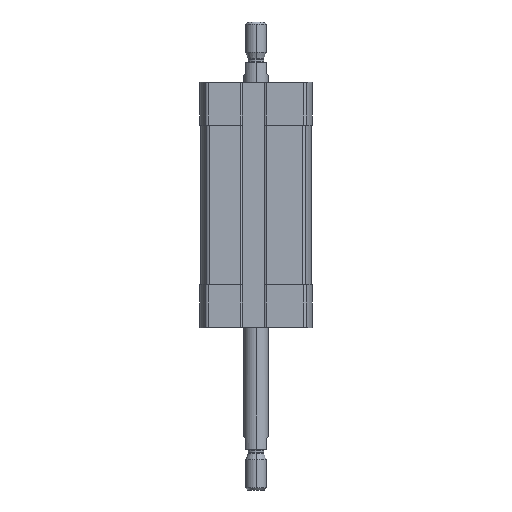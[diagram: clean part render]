
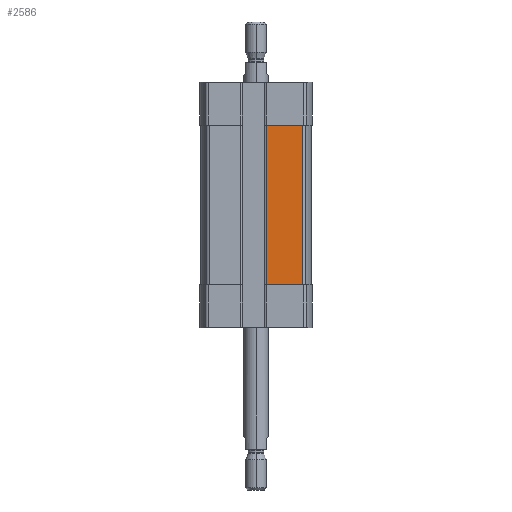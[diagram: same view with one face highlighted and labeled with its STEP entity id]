
A CAD part, left-side view. The second image highlights one B-rep face of the part: STEP entity #2586.
In plain terms, the highlighted planar face has unit normal (-1, 0, 0).
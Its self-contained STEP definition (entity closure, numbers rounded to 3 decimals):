
#1239 = CARTESIAN_POINT ( 'NONE',  ( -13.5, -2.5, -49.5 ) ) ;
#1500 = CARTESIAN_POINT ( 'NONE',  ( -13.5, -11.329, -49.5 ) ) ;
#1507 = ORIENTED_EDGE ( 'NONE', *, *, #3382, .F. ) ;
#1546 = EDGE_CURVE ( 'NONE', #11684, #2479, #5418, .T. ) ;
#1785 = LINE ( 'NONE', #9054, #7003 ) ;
#1839 = AXIS2_PLACEMENT_3D ( 'NONE', #5245, #3228, #4185 ) ;
#1902 = VECTOR ( 'NONE', #6130, 1000. ) ;
#2466 = VECTOR ( 'NONE', #3295, 1000. ) ;
#2479 = VERTEX_POINT ( 'NONE', #6630 ) ;
#2586 = ADVANCED_FACE ( 'NONE', ( #3403 ), #10604, .T. ) ;
#2774 = ORIENTED_EDGE ( 'NONE', *, *, #9204, .T. ) ;
#3004 = DIRECTION ( 'NONE',  ( 0., 0., 1. ) ) ;
#3228 = DIRECTION ( 'NONE',  ( -1., 0., 0. ) ) ;
#3295 = DIRECTION ( 'NONE',  ( 0., 0., 1. ) ) ;
#3382 = EDGE_CURVE ( 'NONE', #9969, #11684, #8426, .T. ) ;
#3403 = FACE_OUTER_BOUND ( 'NONE', #7296, .T. ) ;
#3491 = CARTESIAN_POINT ( 'NONE',  ( -13.5, -2.5, -10.5 ) ) ;
#3529 = ORIENTED_EDGE ( 'NONE', *, *, #1546, .F. ) ;
#4137 = CARTESIAN_POINT ( 'NONE',  ( -13.5, -2.5, -49.5 ) ) ;
#4185 = DIRECTION ( 'NONE',  ( 0., 0., 1. ) ) ;
#4481 = DIRECTION ( 'NONE',  ( 0., -1., 0. ) ) ;
#4771 = ORIENTED_EDGE ( 'NONE', *, *, #9349, .T. ) ;
#5245 = CARTESIAN_POINT ( 'NONE',  ( -13.5, -2.5, -49.5 ) ) ;
#5418 = LINE ( 'NONE', #11718, #1902 ) ;
#5547 = VECTOR ( 'NONE', #3004, 1000. ) ;
#5809 = LINE ( 'NONE', #1500, #2466 ) ;
#6130 = DIRECTION ( 'NONE',  ( 0., -1., 0. ) ) ;
#6630 = CARTESIAN_POINT ( 'NONE',  ( -13.5, -11.329, -10.5 ) ) ;
#7003 = VECTOR ( 'NONE', #4481, 1000. ) ;
#7296 = EDGE_LOOP ( 'NONE', ( #3529, #1507, #4771, #2774 ) ) ;
#7480 = CARTESIAN_POINT ( 'NONE',  ( -13.5, -11.329, -49.5 ) ) ;
#8426 = LINE ( 'NONE', #4137, #5547 ) ;
#9054 = CARTESIAN_POINT ( 'NONE',  ( -13.5, -2.5, -49.5 ) ) ;
#9141 = VERTEX_POINT ( 'NONE', #7480 ) ;
#9204 = EDGE_CURVE ( 'NONE', #9141, #2479, #5809, .T. ) ;
#9349 = EDGE_CURVE ( 'NONE', #9969, #9141, #1785, .T. ) ;
#9969 = VERTEX_POINT ( 'NONE', #1239 ) ;
#10604 = PLANE ( 'NONE',  #1839 ) ;
#11684 = VERTEX_POINT ( 'NONE', #3491 ) ;
#11718 = CARTESIAN_POINT ( 'NONE',  ( -13.5, -2.5, -10.5 ) ) ;
